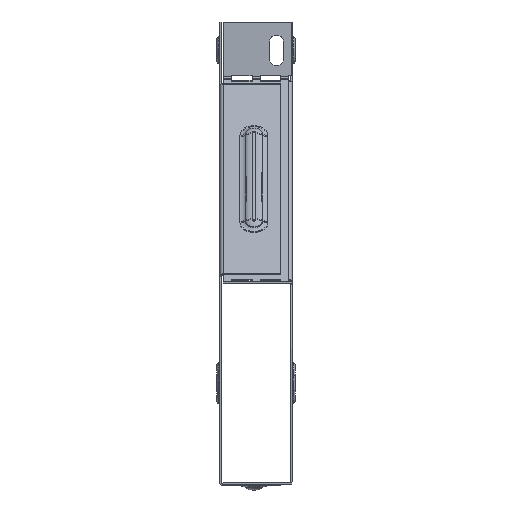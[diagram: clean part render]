
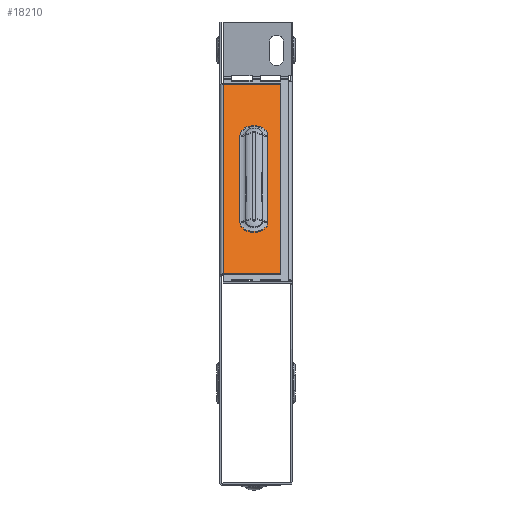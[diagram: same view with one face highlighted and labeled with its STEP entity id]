
A CAD part, left-side view. The second image highlights one B-rep face of the part: STEP entity #18210.
In plain terms, the highlighted planar face has unit normal (-0.707, 0, 0.707).
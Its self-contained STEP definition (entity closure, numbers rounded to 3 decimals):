
#74 = EDGE_LOOP ( 'NONE', ( #4929, #12308, #8690, #13649 ) ) ;
#199 = VERTEX_POINT ( 'NONE', #11258 ) ;
#470 = DIRECTION ( 'NONE',  ( -0.707, 0., -0.707 ) ) ;
#503 = DIRECTION ( 'NONE',  ( 0.707, 0., -0.707 ) ) ;
#1456 = EDGE_CURVE ( 'NONE', #7836, #5196, #4784, .T. ) ;
#1593 = CARTESIAN_POINT ( 'NONE',  ( -79.725, 25.817, 172.152 ) ) ;
#1614 = DIRECTION ( 'NONE',  ( 0.707, 0., -0.707 ) ) ;
#2084 = CARTESIAN_POINT ( 'NONE',  ( -79.725, 18.9, 172.152 ) ) ;
#2350 = CIRCLE ( 'NONE', #19536, 6.917 ) ;
#2438 = DIRECTION ( 'NONE',  ( -0.707, 0., -0.707 ) ) ;
#2586 = EDGE_CURVE ( 'NONE', #8688, #7836, #2350, .T. ) ;
#2617 = VECTOR ( 'NONE', #6068, 1000. ) ;
#2852 = VECTOR ( 'NONE', #12838, 1000. ) ;
#2930 = CARTESIAN_POINT ( 'NONE',  ( -51.838, 34., 200.038 ) ) ;
#3780 = CARTESIAN_POINT ( 'NONE',  ( -79.725, 11.983, 172.152 ) ) ;
#3964 = CIRCLE ( 'NONE', #8422, 6.917 ) ;
#4717 = CARTESIAN_POINT ( 'NONE',  ( -147.917, 5.8, 103.96 ) ) ;
#4784 = LINE ( 'NONE', #13018, #2852 ) ;
#4929 = ORIENTED_EDGE ( 'NONE', *, *, #1456, .T. ) ;
#5196 = VERTEX_POINT ( 'NONE', #1593 ) ;
#5802 = VERTEX_POINT ( 'NONE', #11818 ) ;
#6068 = DIRECTION ( 'NONE',  ( 0.707, 0., 0.707 ) ) ;
#6755 = FACE_BOUND ( 'NONE', #74, .T. ) ;
#6926 = CARTESIAN_POINT ( 'NONE',  ( -122.152, 11.983, 129.725 ) ) ;
#7520 = DIRECTION ( 'NONE',  ( 0., -1., 0. ) ) ;
#7836 = VERTEX_POINT ( 'NONE', #15038 ) ;
#8422 = AXIS2_PLACEMENT_3D ( 'NONE', #2084, #503, #15788 ) ;
#8688 = VERTEX_POINT ( 'NONE', #6926 ) ;
#8690 = ORIENTED_EDGE ( 'NONE', *, *, #11910, .T. ) ;
#8977 = EDGE_CURVE ( 'NONE', #199, #11236, #11600, .T. ) ;
#9675 = VECTOR ( 'NONE', #11862, 1000. ) ;
#10573 = VECTOR ( 'NONE', #7520, 1000. ) ;
#11018 = EDGE_CURVE ( 'NONE', #5196, #13780, #3964, .T. ) ;
#11105 = DIRECTION ( 'NONE',  ( 0.707, 0., -0.707 ) ) ;
#11236 = VERTEX_POINT ( 'NONE', #15914 ) ;
#11258 = CARTESIAN_POINT ( 'NONE',  ( -147.917, 34., 103.96 ) ) ;
#11600 = LINE ( 'NONE', #2930, #2617 ) ;
#11818 = CARTESIAN_POINT ( 'NONE',  ( -53.96, 5.8, 197.917 ) ) ;
#11862 = DIRECTION ( 'NONE',  ( 0.707, 0., 0.707 ) ) ;
#11910 = EDGE_CURVE ( 'NONE', #13780, #8688, #12206, .T. ) ;
#11933 = FACE_OUTER_BOUND ( 'NONE', #14379, .T. ) ;
#11934 = CARTESIAN_POINT ( 'NONE',  ( -53.96, 35.8, 197.917 ) ) ;
#12193 = DIRECTION ( 'NONE',  ( -0.5, 0.707, -0.5 ) ) ;
#12206 = LINE ( 'NONE', #18894, #19347 ) ;
#12308 = ORIENTED_EDGE ( 'NONE', *, *, #11018, .T. ) ;
#12586 = VECTOR ( 'NONE', #13558, 1000. ) ;
#12838 = DIRECTION ( 'NONE',  ( 0.707, 0., 0.707 ) ) ;
#13018 = CARTESIAN_POINT ( 'NONE',  ( -79.725, 25.817, 172.152 ) ) ;
#13036 = LINE ( 'NONE', #15084, #12586 ) ;
#13138 = EDGE_CURVE ( 'NONE', #14693, #5802, #18240, .T. ) ;
#13352 = AXIS2_PLACEMENT_3D ( 'NONE', #15631, #11105, #470 ) ;
#13558 = DIRECTION ( 'NONE',  ( 0., 1., 0. ) ) ;
#13649 = ORIENTED_EDGE ( 'NONE', *, *, #2586, .T. ) ;
#13670 = LINE ( 'NONE', #11934, #10573 ) ;
#13780 = VERTEX_POINT ( 'NONE', #3780 ) ;
#13887 = EDGE_CURVE ( 'NONE', #11236, #5802, #13670, .T. ) ;
#14379 = EDGE_LOOP ( 'NONE', ( #16600, #18958, #18778, #18599 ) ) ;
#14693 = VERTEX_POINT ( 'NONE', #4717 ) ;
#15038 = CARTESIAN_POINT ( 'NONE',  ( -122.152, 25.817, 129.725 ) ) ;
#15084 = CARTESIAN_POINT ( 'NONE',  ( -147.917, 36.899, 103.96 ) ) ;
#15320 = CARTESIAN_POINT ( 'NONE',  ( -122.152, 18.9, 129.725 ) ) ;
#15506 = PLANE ( 'NONE',  #13352 ) ;
#15631 = CARTESIAN_POINT ( 'NONE',  ( -125.938, 35.8, 125.938 ) ) ;
#15788 = DIRECTION ( 'NONE',  ( -0.5, 0.707, -0.5 ) ) ;
#15914 = CARTESIAN_POINT ( 'NONE',  ( -53.96, 34., 197.917 ) ) ;
#16600 = ORIENTED_EDGE ( 'NONE', *, *, #17646, .F. ) ;
#17646 = EDGE_CURVE ( 'NONE', #14693, #199, #13036, .T. ) ;
#18009 = CARTESIAN_POINT ( 'NONE',  ( -125.938, 5.8, 125.938 ) ) ;
#18210 = ADVANCED_FACE ( 'NONE', ( #6755, #11933 ), #15506, .F. ) ;
#18240 = LINE ( 'NONE', #18009, #9675 ) ;
#18599 = ORIENTED_EDGE ( 'NONE', *, *, #8977, .F. ) ;
#18778 = ORIENTED_EDGE ( 'NONE', *, *, #13887, .F. ) ;
#18894 = CARTESIAN_POINT ( 'NONE',  ( -79.725, 11.983, 172.152 ) ) ;
#18958 = ORIENTED_EDGE ( 'NONE', *, *, #13138, .T. ) ;
#19347 = VECTOR ( 'NONE', #2438, 1000. ) ;
#19536 = AXIS2_PLACEMENT_3D ( 'NONE', #15320, #1614, #12193 ) ;
